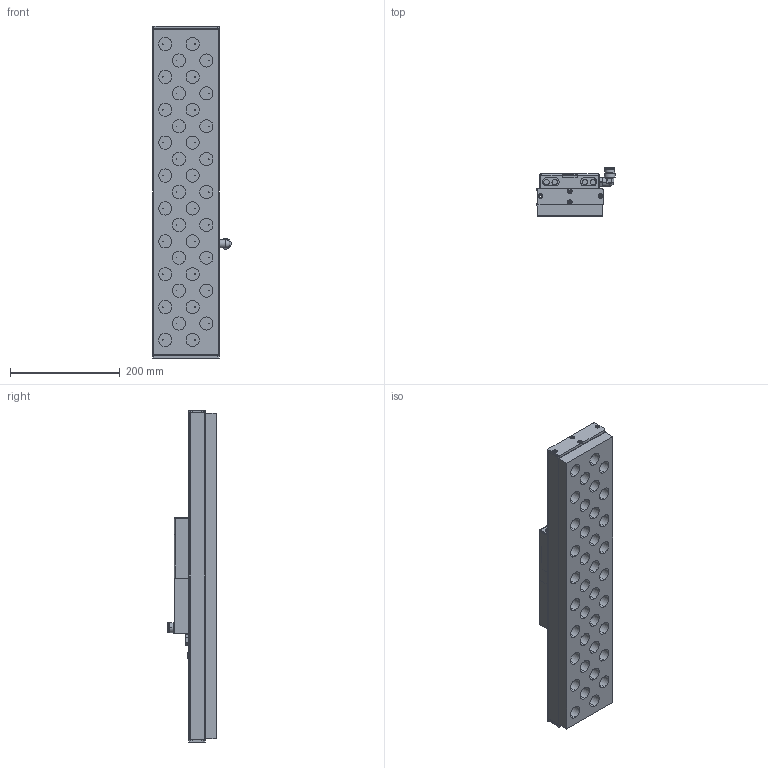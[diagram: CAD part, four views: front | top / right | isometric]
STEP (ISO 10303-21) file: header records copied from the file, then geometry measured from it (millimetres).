
FILE_DESCRIPTION (( 'STEP AP214' ), '1' );
FILE_NAME ('310 600 013.STEP', '2018-01-10T08:58:55', ( '' ), ( '' ), 'SwSTEP 2.0', 'SolidWorks 2017', '' );
FILE_SCHEMA (( 'AUTOMOTIVE_DESIGN' ));
Length unit declared in the file: millimetre
Products named in the file (1): 310 600 013
Bounding box: 142.75 x 89 x 606 mm (x, y, z)
Volume: 2560325.4 mm3; surface area: 701622.9 mm2
Topology: 7 solids, 8 shells, 1065 faces, 2945 edges, 1912 vertices
Faces by surface type: cylinder 651, plane 316, cone 50, torus 39, bspline 6, sphere 3
Entity records: 48516 total; most frequent: CARTESIAN_POINT 9047, DIRECTION 5885, ORIENTED_EDGE 5872, EDGE_CURVE 2936, AXIS2_PLACEMENT_3D 2277, VERTEX_POINT 1909, EDGE_LOOP 1359, LINE 1331
